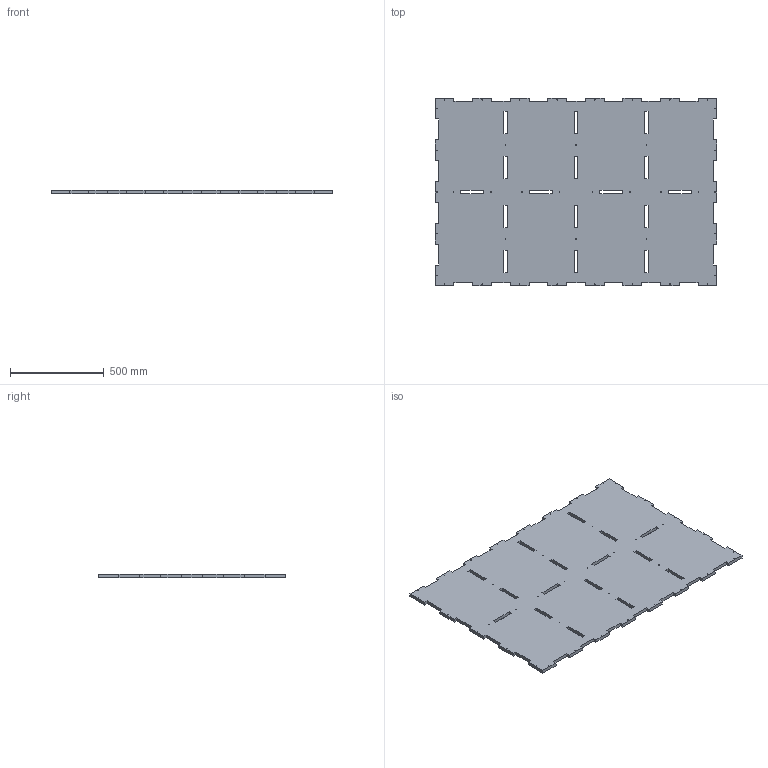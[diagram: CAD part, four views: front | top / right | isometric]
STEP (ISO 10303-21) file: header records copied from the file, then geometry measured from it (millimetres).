
FILE_DESCRIPTION(('Open CASCADE Model'),'2;1');
FILE_NAME('Open CASCADE Shape Model','2026-09-28T10:14:42',('Author'),( 'Open CASCADE'),'Open CASCADE STEP processor 7.9','Open CASCADE 7.9' ,'Unknown');
FILE_SCHEMA(('AUTOMOTIVE_DESIGN { 1 0 10303 214 1 1 1 1 }'));
Length unit declared in the file: millimetre
Products named in the file (1): Open CASCADE STEP translator 7.9 64
Bounding box: 1500 x 1000 x 18 mm (x, y, z)
Volume: 25624825.4 mm3; surface area: 3036832.1 mm2
Topology: 1 solids, 1 shells, 198 faces, 588 edges, 392 vertices
Faces by surface type: plane 158, cylinder 40
Full cylindrical faces by diameter (mm): 2.5 x40
Entity records: 14450 total; most frequent: CARTESIAN_POINT 2355, DIRECTION 2242, LINE 1604, VECTOR 1604, ORIENTED_EDGE 1176, PCURVE 1176, DEFINITIONAL_REPRESENTATION 1176, EDGE_CURVE 588
